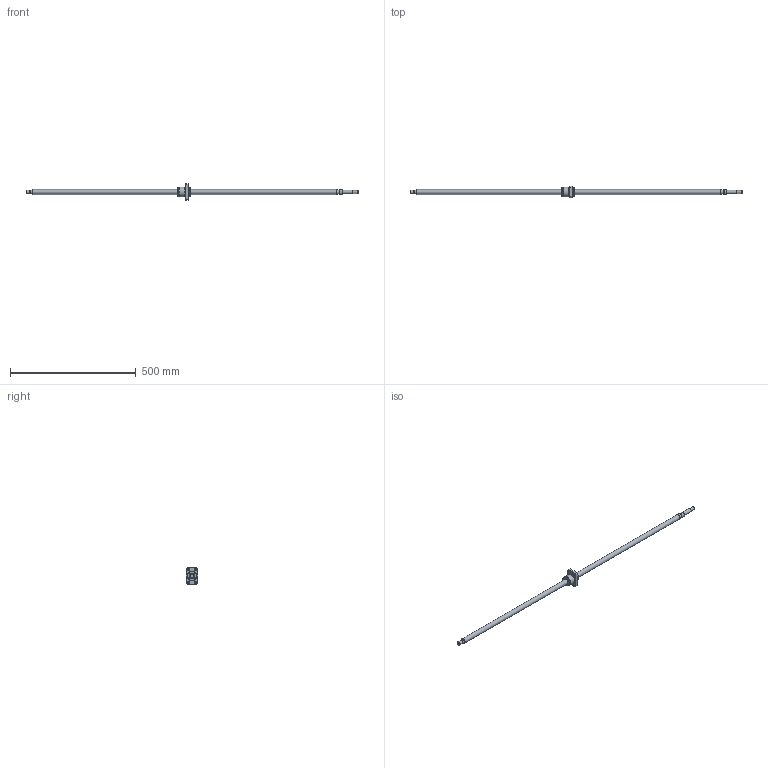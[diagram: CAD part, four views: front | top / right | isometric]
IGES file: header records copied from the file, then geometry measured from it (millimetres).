
Start section: Data from Parasolid IGES Translator 26.0.171, Copyright(c) 2006 Siemens PLM Software. All Rights Reserved.
Global section: file name: BNK2020-3.6G0+1320LC5Y(6310).igs; native system: By Siemens PLM Incorporated; preprocessor: XPlus GENERIC/IGES 26.0.171; author: Noname; organization: Noname; date: 20240709.094045; units: millimetre
Bounding box: 1320 x 46 x 66 mm (x, y, z)
Surface area: 99630.6 mm2 (no closed solid volume)
Topology: 0 solids, 0 shells, 139 faces, 649 edges, 586 vertices
Faces by surface type: extrusion 75, revolution 64
